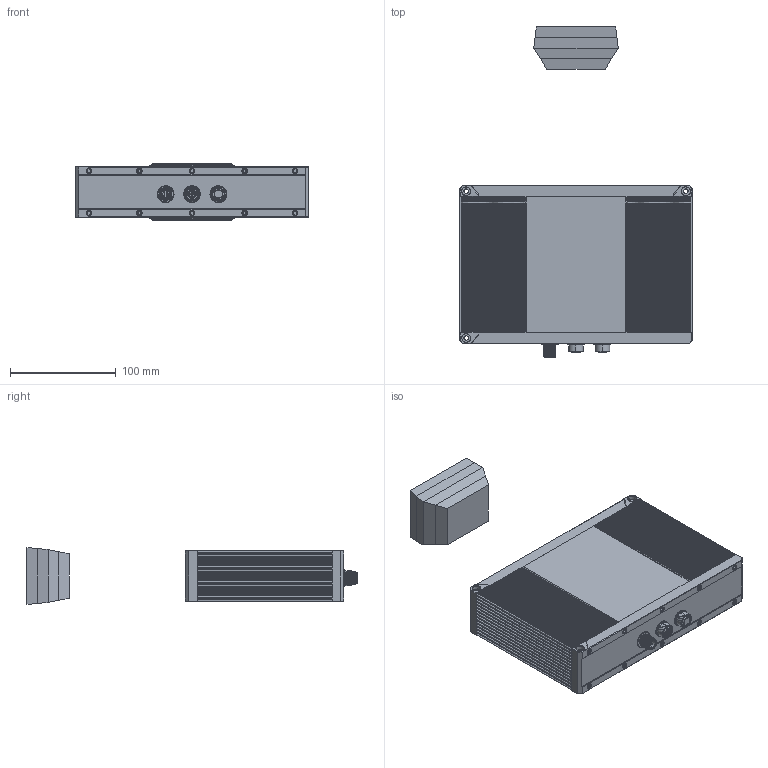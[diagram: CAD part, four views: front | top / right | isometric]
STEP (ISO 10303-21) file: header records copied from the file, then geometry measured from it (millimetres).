
FILE_DESCRIPTION((''),'2;1');
FILE_NAME('0000303447_ASM','2020-11-12T12:58:13',('11000116'),(''),'CREO PARAMETRIC BY PTC INC, 2020044','CREO PARAMETRIC BY PTC INC, 2020044','');
FILE_SCHEMA(('AUTOMOTIVE_DESIGN { 1 0 10303 214 1 1 1 1 }'));
Products named in the file (4): 0000335208; 0000303516; 0000343620; 0000303447_ASM
Assembly tree (3 placements, depth 2):
  0000303447_ASM
    0000335208
    0000303516
    0000343620
Bounding box: 220 x 312.5 x 54 mm (x, y, z)
Volume: 1659011 mm3; surface area: 195625 mm2
Topology: 5 solids, 9 shells, 2888 faces, 7591 edges, 4828 vertices
Faces by surface type: cylinder 1525, plane 1089, torus 127, cone 102, bspline 35, sphere 10
Entity records: 163554 total; most frequent: CARTESIAN_POINT 45744, DIRECTION 16809, ORIENTED_EDGE 15178, PRESENTATION_STYLE_ASSIGNMENT 10187, STYLED_ITEM 7616, CURVE_STYLE 7611, EDGE_CURVE 7589, AXIS2_PLACEMENT_3D 6673
